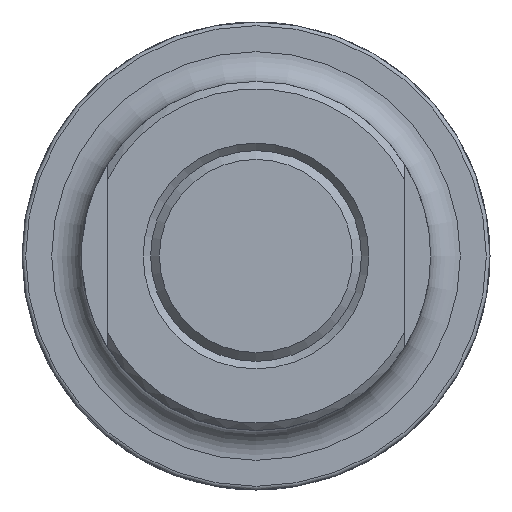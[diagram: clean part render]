
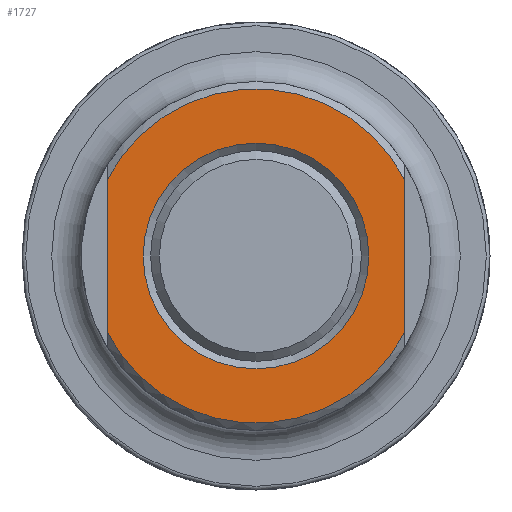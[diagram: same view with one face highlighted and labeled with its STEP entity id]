
A CAD part, front view. The second image highlights one B-rep face of the part: STEP entity #1727.
In plain terms, the highlighted planar face has unit normal (0, -1, 0) as drawn and (0, 1, 0) by its records, which use the part's own axes.
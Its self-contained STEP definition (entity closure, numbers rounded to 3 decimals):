
#109=FACE_BOUND('',#396,.T.);
#183=PLANE('',#2069);
#281=FACE_OUTER_BOUND('',#395,.T.);
#395=EDGE_LOOP('',(#1595,#1596,#1597,#1598));
#396=EDGE_LOOP('',(#1599));
#489=CIRCLE('',#2055,22.5);
#490=CIRCLE('',#2057,22.5);
#497=CIRCLE('',#2068,15.188);
#586=LINE('',#3208,#687);
#593=LINE('',#3236,#694);
#687=VECTOR('',#2518,10.);
#694=VECTOR('',#2531,10.);
#860=VERTEX_POINT('',#3202);
#862=VERTEX_POINT('',#3207);
#867=VERTEX_POINT('',#3222);
#871=VERTEX_POINT('',#3232);
#881=VERTEX_POINT('',#3271);
#1091=EDGE_CURVE('',#862,#860,#586,.T.);
#1102=EDGE_CURVE('',#867,#871,#593,.T.);
#1110=EDGE_CURVE('',#862,#871,#489,.T.);
#1111=EDGE_CURVE('',#867,#860,#490,.T.);
#1120=EDGE_CURVE('',#881,#881,#497,.T.);
#1595=ORIENTED_EDGE('',*,*,#1091,.T.);
#1596=ORIENTED_EDGE('',*,*,#1111,.F.);
#1597=ORIENTED_EDGE('',*,*,#1102,.T.);
#1598=ORIENTED_EDGE('',*,*,#1110,.F.);
#1599=ORIENTED_EDGE('',*,*,#1120,.F.);
#1727=ADVANCED_FACE('',(#281,#109),#183,.T.);
#2055=AXIS2_PLACEMENT_3D('',#3250,#2551,#2552);
#2057=AXIS2_PLACEMENT_3D('',#3252,#2555,#2556);
#2068=AXIS2_PLACEMENT_3D('',#3272,#2579,#2580);
#2069=AXIS2_PLACEMENT_3D('',#3274,#2582,#2583);
#2518=DIRECTION('',(0.,0.,1.));
#2531=DIRECTION('',(0.,0.,-1.));
#2551=DIRECTION('center_axis',(0.,-1.,0.));
#2552=DIRECTION('ref_axis',(1.,0.,0.));
#2555=DIRECTION('center_axis',(0.,-1.,0.));
#2556=DIRECTION('ref_axis',(1.,0.,0.));
#2579=DIRECTION('center_axis',(0.,1.,0.));
#2580=DIRECTION('ref_axis',(-1.,0.,0.));
#2582=DIRECTION('center_axis',(0.,1.,0.));
#2583=DIRECTION('ref_axis',(0.,0.,1.));
#3202=CARTESIAN_POINT('',(-20.,25.,10.308));
#3207=CARTESIAN_POINT('',(-20.,25.,-10.308));
#3208=CARTESIAN_POINT('',(-20.,25.,-6.169));
#3222=CARTESIAN_POINT('',(20.,25.,10.308));
#3232=CARTESIAN_POINT('',(20.,25.,-10.308));
#3236=CARTESIAN_POINT('',(20.,25.,6.169));
#3250=CARTESIAN_POINT('Origin',(0.,25.,0.));
#3252=CARTESIAN_POINT('Origin',(0.,25.,0.));
#3271=CARTESIAN_POINT('',(15.188,25.,0.));
#3272=CARTESIAN_POINT('Origin',(0.,25.,0.));
#3274=CARTESIAN_POINT('Origin',(0.,25.,0.));
